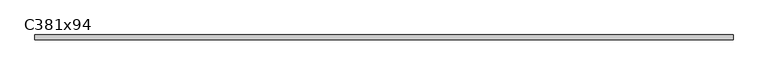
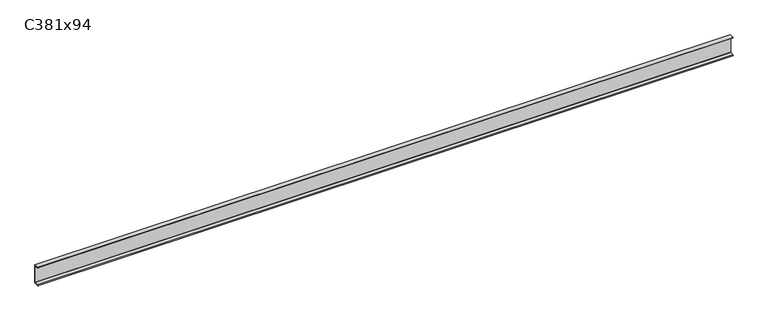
"""IFC4 building model written with IfcOpenShell, lengths in millimetres: beam geometry, M_C-Channel_305x105 : C381x94."""

from ifc_helpers import new_model, si_unit, point, frame, frame_2d, origin, place, context, project, spatial, polyline, circle_curve, trimmed, segment, composite_curve, outline, extrude, source, transform, mapped, element, save


def c381x94_16dd5fd5(model_context):
    return source(origin(), model_context, "Body", "SweptSolid", [
        extrude(outline(composite_curve([segment(polyline([(13.8909985, 190.5), (13.8909985, -190.5), (-80.1090015, -190.5)]), True, "CONTINUOUS"), segment(trimmed(circle_curve(frame_2d((-67.4090015, -190.5)), 12.7), [point((-80.1090015, -190.5))], [point((-67.4090015, -177.8))], False, "CARTESIAN"), True, "CONTINUOUS"), segment(polyline([(-67.4090015, -177.8), (0.8909985, -166.9823427), (0.8909985, 166.9823427), (-67.4090015, 177.8)]), True, "CONTINUOUS"), segment(trimmed(circle_curve(frame_2d((-67.4090015, 190.5)), 12.7), [point((-67.4090015, 177.8))], [point((-80.1090015, 190.5))], False, "CARTESIAN"), True, "CONTINUOUS"), segment(polyline([(-80.1090015, 190.5), (13.8909985, 190.5)]), True, "CONTINUOUS")], self_intersect=False)), frame((-4911.9820009, 0.0, 0.0), z_axis=(1.0, 0.0, 0.0), x_axis=(0.0, 1.0, 0.0)), (0.0, 0.0, 1.0), 13712.0),
        extrude(outline(polyline([(-4.2340015, 166.8239583), (0.8909985, 166.012238), (0.8909985, -166.012238), (-4.2340015, -166.8239583), (-4.2340015, -164.495707), (-4.2340015, 166.8239583)])), frame((-4911.9820009, 0.0, 0.0), z_axis=(1.0, 0.0, 0.0), x_axis=(0.0, 1.0, 0.0)), (0.0, 0.0, 1.0), 13712.0),
    ])


if __name__ == "__main__":
    model = new_model("IFC4")
    model_context = context("Model", 3, world=origin())
    ifc_project = project(units=[si_unit("LENGTHUNIT", "METRE", prefix="MILLI")], contexts=[model_context])
    site = spatial("IfcSite", under=ifc_project)
    building = spatial("IfcBuilding", under=site)
    placement = place(None, origin())
    c381x94_shape = c381x94_16dd5fd5(model_context)
    element("IfcBeam", 1, ObjectType="M_C-Channel_305x105 : C381x94", at=placement, inside=building, context=model_context, shape_type="MappedRepresentation", body=[
        mapped(c381x94_shape, transform((0.0, 0.0, 0.0), x_axis=(1.0, 0.0, 0.0), y_axis=(0.0, 1.0, 0.0), z_axis=(0.0, 0.0, 1.0))),
    ])
    save(model, "model.ifc")
